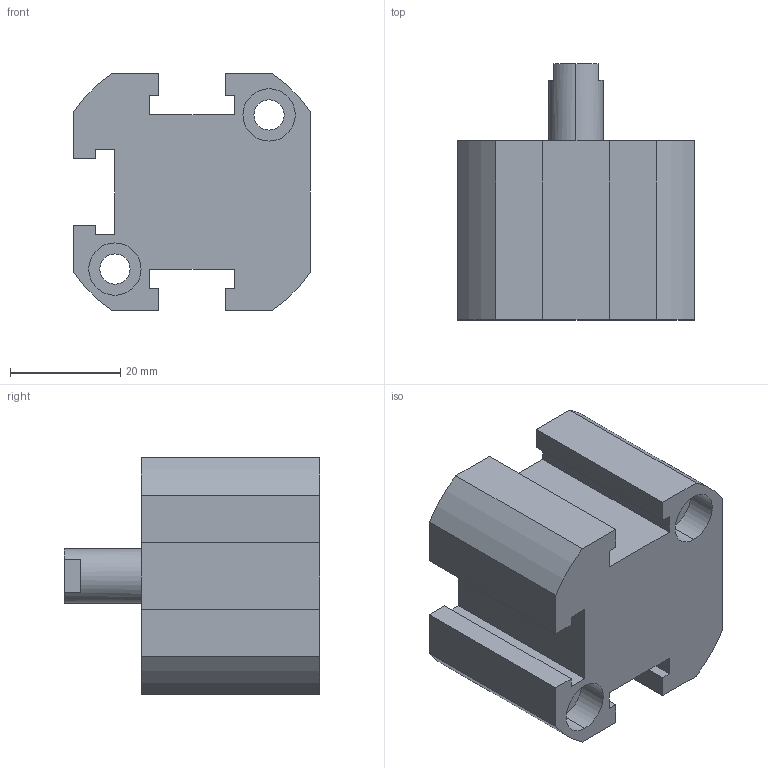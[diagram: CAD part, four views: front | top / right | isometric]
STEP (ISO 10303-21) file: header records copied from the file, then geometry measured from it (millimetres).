
FILE_DESCRIPTION (( 'STEP AP203' ), '1' );
FILE_NAME ('XC#0-25-10.STEP', '2016-05-23T06:55:22', ( '' ), ( '' ), 'SwSTEP 2.0', 'SolidWorks 2014', '' );
FILE_SCHEMA (( 'CONFIG_CONTROL_DESIGN' ));
Length unit declared in the file: millimetre
Products named in the file (1): XC#0-25-10
Bounding box: 43 x 46.5 x 43 mm (x, y, z)
Volume: 44988.3 mm3; surface area: 12528.5 mm2
Topology: 1 solids, 1 shells, 88 faces, 225 edges, 146 vertices
Faces by surface type: plane 44, cylinder 40, cone 4
Entity records: 2742 total; most frequent: DIRECTION 483, CARTESIAN_POINT 456, ORIENTED_EDGE 442, EDGE_CURVE 221, AXIS2_PLACEMENT_3D 173, VERTEX_POINT 146, LINE 137, VECTOR 137
